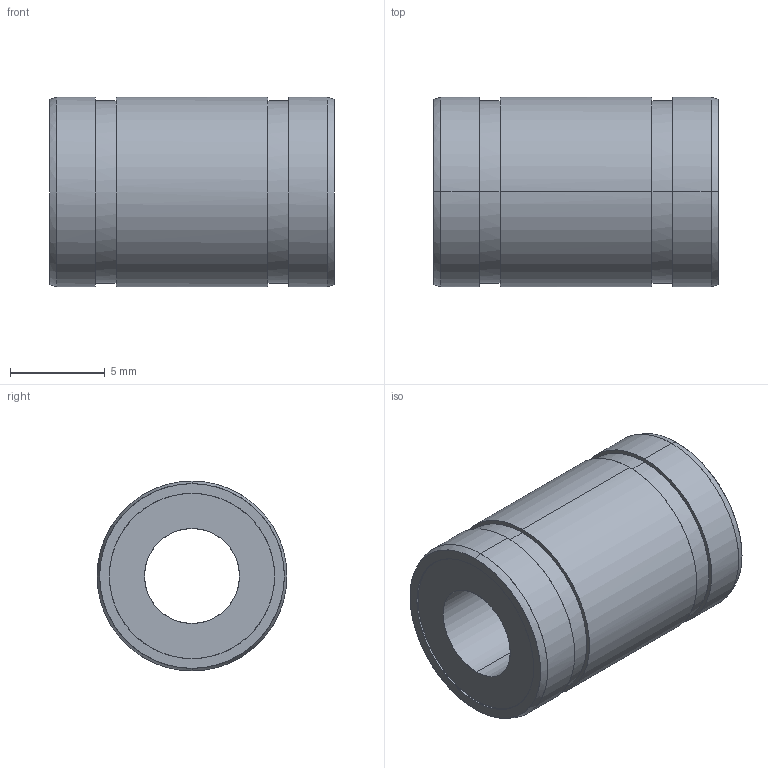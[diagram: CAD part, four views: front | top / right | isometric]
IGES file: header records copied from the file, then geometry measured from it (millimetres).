
Global section: file name: No Iges File Name specified; native system: AutoDesk Inventor R10; preprocessor: AutoDesk Inventor Iges Exporter R10; author: No Author specified; organization: No Organization specified; date: 20101208.094556; units: millimetre
Bounding box: 15 x 10 x 10 mm (x, y, z)
Surface area: 841.5 mm2 (no closed solid volume)
Topology: 0 solids, 0 shells, 28 faces, 184 edges, 184 vertices
Faces by surface type: bspline 28
